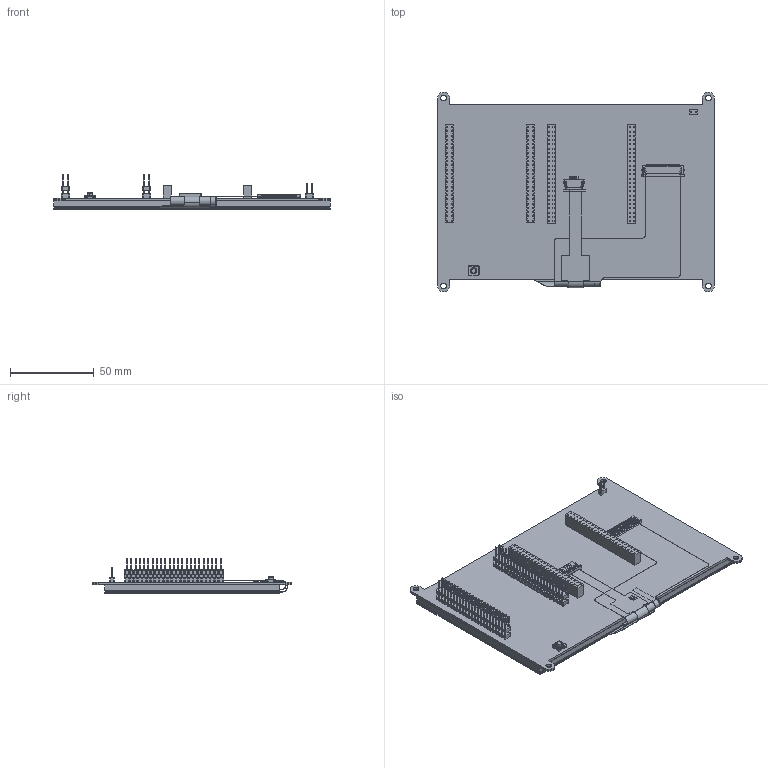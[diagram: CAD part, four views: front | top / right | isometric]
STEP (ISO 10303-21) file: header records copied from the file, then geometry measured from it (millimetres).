
FILE_DESCRIPTION (( 'STEP AP214' ), '1' );
FILE_NAME ('NHD-7.0CTP-CAPE.STEP', '2018-02-21T19:27:41', ( '' ), ( '' ), 'SwSTEP 2.0', 'SolidWorks 2018', '' );
FILE_SCHEMA (( 'AUTOMOTIVE_DESIGN' ));
Length unit declared in the file: millimetre
Products named in the file (3): NHD-7.0-800480EF-ASXN#-CTP; NHD-7.0CTP-PCB; NHD-7.0CTP-CAPE
Assembly tree (2 placements, depth 2):
  NHD-7.0CTP-CAPE
    NHD-7.0CTP-PCB
    NHD-7.0-800480EF-ASXN#-CTP
Bounding box: 165 x 119.21 x 20.68 mm (x, y, z)
Volume: 35457.7 mm3; surface area: 97067.2 mm2
Topology: 2 solids, 8 shells, 4247 faces, 12958 edges, 8632 vertices
Faces by surface type: plane 3561, cylinder 673, cone 7, bspline 6
Entity records: 169970 total; most frequent: CARTESIAN_POINT 26948, ORIENTED_EDGE 25546, DIRECTION 22609, EDGE_CURVE 12958, VECTOR 11471, LINE 11471, VERTEX_POINT 8632, AXIS2_PLACEMENT_3D 5569
